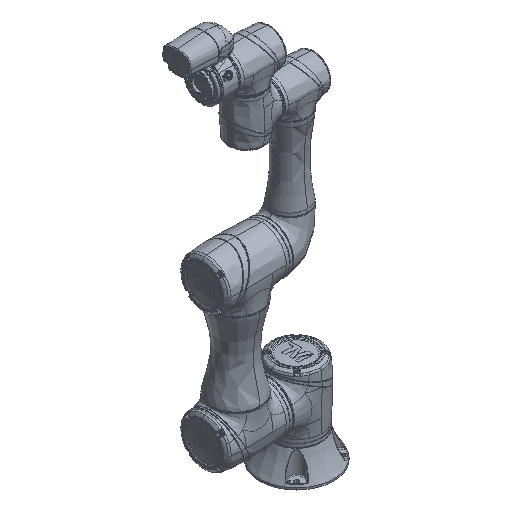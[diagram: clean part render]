
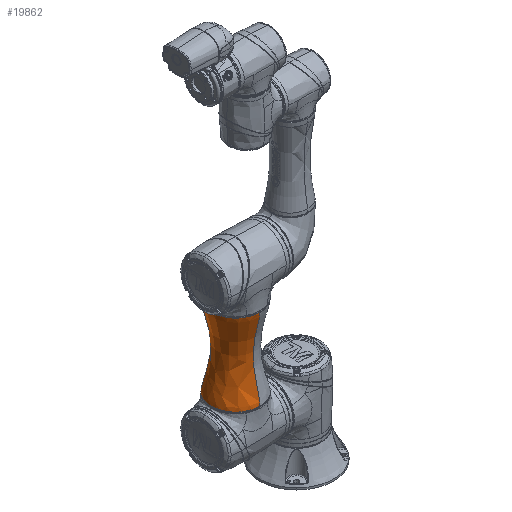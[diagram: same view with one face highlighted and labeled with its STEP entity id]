
A CAD part, isometric view. The second image highlights one B-rep face of the part: STEP entity #19862.
In plain terms, the highlighted face is a revolution surface.
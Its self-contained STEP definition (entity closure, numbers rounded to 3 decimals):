
#19583=CARTESIAN_POINT('',(58.485,-97.5,-0.002));
#19584=CARTESIAN_POINT('',(58.485,-91.362,
-0.002));
#19585=CARTESIAN_POINT('',(55.903,-78.827,
0.));
#19586=CARTESIAN_POINT('',(49.385,-56.151,
-0.001));
#19587=CARTESIAN_POINT('',(43.994,-29.343,
-0.001));
#19588=CARTESIAN_POINT('',(41.948,0.,-0.001));
#19589=CARTESIAN_POINT('',(43.994,29.343,
-0.001));
#19590=CARTESIAN_POINT('',(49.385,56.151,
-0.001));
#19591=CARTESIAN_POINT('',(55.903,78.827,
0.));
#19592=CARTESIAN_POINT('',(58.485,91.362,
-0.002));
#19593=CARTESIAN_POINT('',(58.485,97.5,-0.002));
#19595=CARTESIAN_POINT('',(-58.485,97.5,-0.002));
#19601=CARTESIAN_POINT('',(58.485,97.5,-0.002));
#19603=CARTESIAN_POINT('',(0.,97.5,0.));
#19604=DIRECTION('',(0.,-1.,0.));
#19605=DIRECTION('',(1.,0.,0.));
#19606=AXIS2_PLACEMENT_3D('',#19603,#19604,#19605);
#19618=CARTESIAN_POINT('',(-58.485,-97.5,-0.002));
#19619=CARTESIAN_POINT('',(-58.485,-91.362,
-0.002));
#19620=CARTESIAN_POINT('',(-55.866,-78.827,
0.));
#19621=CARTESIAN_POINT('',(-49.366,-56.151,
-0.001));
#19622=CARTESIAN_POINT('',(-43.974,-29.343,
-0.001));
#19623=CARTESIAN_POINT('',(-41.929,0.,
-0.001));
#19624=CARTESIAN_POINT('',(-43.974,29.343,
-0.001));
#19625=CARTESIAN_POINT('',(-49.366,56.151,
-0.001));
#19626=CARTESIAN_POINT('',(-55.866,78.827,
0.));
#19627=CARTESIAN_POINT('',(-58.485,91.362,
-0.002));
#19628=CARTESIAN_POINT('',(-58.485,97.5,-0.002));
#19630=CARTESIAN_POINT('',(0.,-97.5,0.));
#19631=DIRECTION('',(0.,1.,0.));
#19632=DIRECTION('',(-1.,0.,0.));
#19633=AXIS2_PLACEMENT_3D('',#19630,#19631,#19632);
#19635=CARTESIAN_POINT('',(58.485,-97.5,-0.002));
#19689=VERTEX_POINT('',#19595);
#19690=VERTEX_POINT('',#19601);
#19691=VERTEX_POINT('',#19618);
#19692=VERTEX_POINT('',#19635);
#19837=CARTESIAN_POINT('',(-58.427,99.483,
0.));
#19838=CARTESIAN_POINT('',(-58.458,98.823,
0.));
#19839=CARTESIAN_POINT('',(-58.614,92.039,
0.));
#19840=CARTESIAN_POINT('',(-55.871,78.827,
0.));
#19841=CARTESIAN_POINT('',(-49.365,56.151,
0.));
#19842=CARTESIAN_POINT('',(-43.974,29.343,0.));
#19843=CARTESIAN_POINT('',(-41.929,0.,0.));
#19844=CARTESIAN_POINT('',(-43.974,-29.343,0.));
#19845=CARTESIAN_POINT('',(-49.365,-56.151,
0.));
#19846=CARTESIAN_POINT('',(-55.871,-78.827,
0.));
#19847=CARTESIAN_POINT('',(-58.613,-92.036,
0.));
#19848=CARTESIAN_POINT('',(-58.459,-98.817,
0.));
#19849=CARTESIAN_POINT('',(-58.427,-99.474,
0.));
#19851=CARTESIAN_POINT('',(0.,0.,0.));
#19852=DIRECTION('',(0.,-1.,0.));
#19853=AXIS1_PLACEMENT('',#19851,#19852);
#19854=SURFACE_OF_REVOLUTION('',#19850,#19853);
#19855=ORIENTED_EDGE('',*,*,#19826,.F.);
#19856=ORIENTED_EDGE('',*,*,#19815,.F.);
#19858=ORIENTED_EDGE('',*,*,#19857,.F.);
#19859=ORIENTED_EDGE('',*,*,#19811,.T.);
#19860=EDGE_LOOP('',(#19855,#19856,#19858,#19859));
#19861=FACE_OUTER_BOUND('',#19860,.F.);
#19594=B_SPLINE_CURVE_WITH_KNOTS('',3,(#19583,#19584,#19585,#19586,#19587,
#19588,#19589,#19590,#19591,#19592,#19593),.UNSPECIFIED.,.F.,.F.,(4,1,1,1,1,1,1,
1,4),(0.,0.125,0.25,0.375,
0.5,0.625,0.75,0.875,1.),.UNSPECIFIED.);
#19607=CIRCLE('',#19606,58.474);
#19629=B_SPLINE_CURVE_WITH_KNOTS('',3,(#19618,#19619,#19620,#19621,#19622,
#19623,#19624,#19625,#19626,#19627,#19628),.UNSPECIFIED.,.F.,.F.,(4,1,1,1,1,1,1,
1,4),(0.,0.125,0.25,0.375,0.5,0.625,0.75,0.875,1.),
.UNSPECIFIED.);
#19634=CIRCLE('',#19633,58.474);
#19811=EDGE_CURVE('',#19691,#19689,#19629,.T.);
#19815=EDGE_CURVE('',#19692,#19690,#19594,.T.);
#19826=EDGE_CURVE('',#19690,#19689,#19607,.T.);
#19850=B_SPLINE_CURVE_WITH_KNOTS('',3,(#19837,#19838,#19839,#19840,#19841,
#19842,#19843,#19844,#19845,#19846,#19847,#19848,#19849),.UNSPECIFIED.,.F.,.F.,(
4,1,1,1,1,1,1,1,1,1,4),(0.,0.013,0.135,
0.257,0.378,0.5,0.622,
0.743,0.865,0.987,1.),.UNSPECIFIED.);
#19857=EDGE_CURVE('',#19691,#19692,#19634,.T.);
#19862=ADVANCED_FACE('',(#19861),#19854,.T.);
